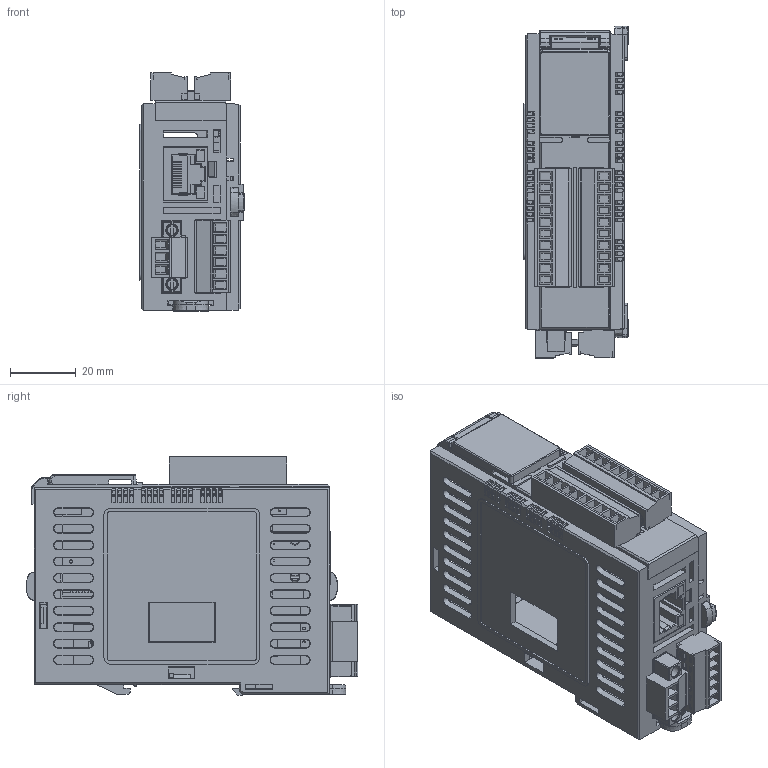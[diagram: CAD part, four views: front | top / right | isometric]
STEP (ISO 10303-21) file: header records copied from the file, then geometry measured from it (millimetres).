
FILE_DESCRIPTION (( 'STEP AP214' ), '1' );
FILE_NAME ('CM3-SP16MDTF(C)_目池磐 器窃.STEP', '2025-10-20T06:18:38', ( '' ), ( '' ), 'SwSTEP 2.0', 'SolidWorks 2024', '' );
FILE_SCHEMA (( 'AUTOMOTIVE_DESIGN' ));
Length unit declared in the file: millimetre
Products named in the file (1): CM3-SP16MDTF(C)_커넥터 포함
Bounding box: 31.7 x 101.12 x 72.6 mm (x, y, z)
Volume: 51489 mm3; surface area: 70483.9 mm2
Topology: 1 solids, 29 shells, 6759 faces, 18891 edges, 12308 vertices
Faces by surface type: plane 5760, cylinder 732, bspline 130, cone 73, torus 56, sphere 8
Full cylindrical faces by diameter (mm): 1.9 x20, 2 x8, 2.3 x20, 2.7 x20, 2.87 x4, 2.95 x10, 3.85 x4
Entity records: 219533 total; most frequent: CARTESIAN_POINT 47172, ORIENTED_EDGE 37378, DIRECTION 32011, EDGE_CURVE 18689, VECTOR 15631, LINE 15631, VERTEX_POINT 12220, AXIS2_PLACEMENT_3D 8190
